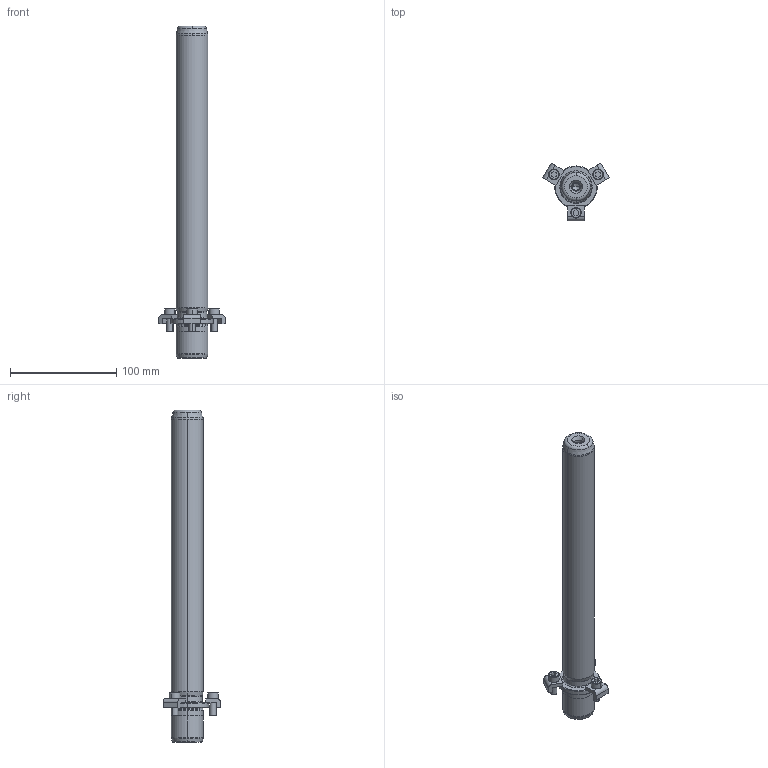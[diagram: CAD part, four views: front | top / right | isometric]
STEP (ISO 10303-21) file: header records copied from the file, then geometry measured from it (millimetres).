
FILE_DESCRIPTION((''),'2;1');
FILE_NAME('P21_030_280.stp','2008-12-23T09:58:14',(''),(''),'Mechanical Desktop 2009','Mechanical Desktop 2009',', , ');
FILE_SCHEMA(('CONFIG_CONTROL_DESIGN'));
Length unit declared in the file: millimetre
Products named in the file (2): Product; blmdl1
Assembly tree (1 placements, depth 2):
  Product
    blmdl1
Bounding box: 62.51 x 54.13 x 312 mm (x, y, z)
Volume: 224548 mm3; surface area: 37337.6 mm2
Topology: 7 solids, 7 shells, 163 faces, 399 edges, 257 vertices
Faces by surface type: plane 59, cylinder 44, cone 32, torus 14, bspline 14
Entity records: 5517 total; most frequent: CARTESIAN_POINT 1433, DIRECTION 908, ORIENTED_EDGE 790, EDGE_CURVE 395, AXIS2_PLACEMENT_3D 362, VERTEX_POINT 257, CIRCLE 211, VECTOR 184
